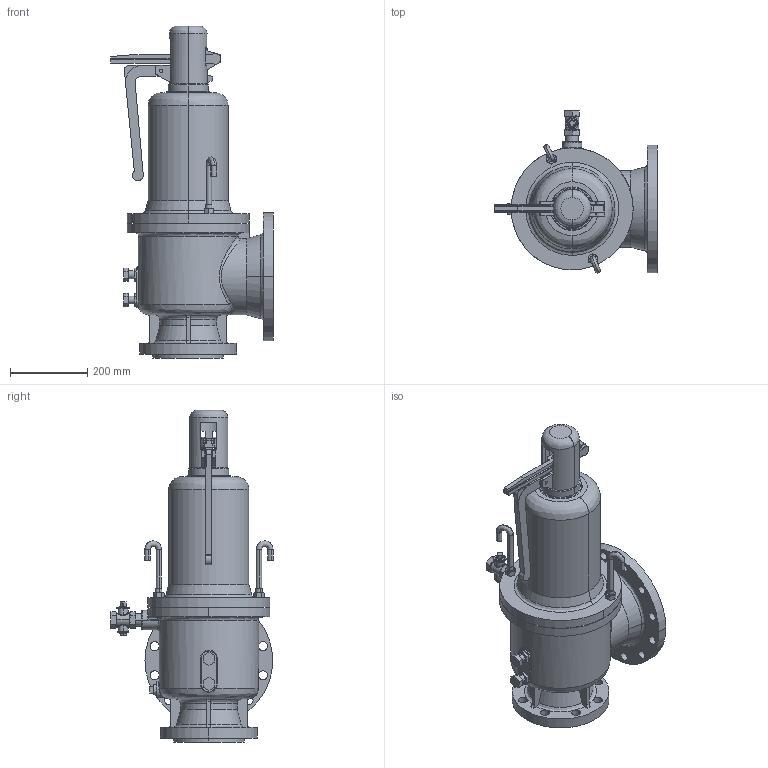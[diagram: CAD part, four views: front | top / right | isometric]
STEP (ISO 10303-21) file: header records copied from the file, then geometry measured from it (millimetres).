
FILE_DESCRIPTION( (''), '2;1');
FILE_NAME ('PC1027.9568.AF-4 125A_31853.stp','2025-07-28T12:54:04',(''),(''),'spGate 19.8.4 (****-****-****-****)','','');
FILE_SCHEMA (('AUTOMOTIVE_DESIGN'));
Length unit declared in the file: millimetre
Products named in the file (10): Assembly; AF-4 本体部P 125A; プラグ 20A; 止めボルト 125A; 背圧絞り弁 125A; フックボルト 125A; ナット M16; レバーキャップ 125A; レバー支え 125A; レバー 125A
Assembly tree (12 placements, depth 2):
  Assembly
    AF-4 本体部P 125A
    プラグ 20A
    止めボルト 125A  x2
    背圧絞り弁 125A
    フックボルト 125A  x2
    ナット M16  x2
    レバーキャップ 125A
    レバー支え 125A
    レバー 125A
Bounding box: 420 x 418.9 x 857.5 mm (x, y, z)
Volume: 33089137.1 mm3; surface area: 1219647.1 mm2
Topology: 12 solids, 12 shells, 532 faces, 1370 edges, 868 vertices
Faces by surface type: plane 197, cylinder 180, bspline 155
Entity records: 36777 total; most frequent: CARTESIAN_POINT 15657, ORIENTED_EDGE 2488, DIRECTION 2124, COLOUR_RGB 1740, PRESENTATION_STYLE_ASSIGNMENT 1740, STYLED_ITEM 1740, EDGE_CURVE 1244, DRAUGHTING_PRE_DEFINED_CURVE_FONT 1244
